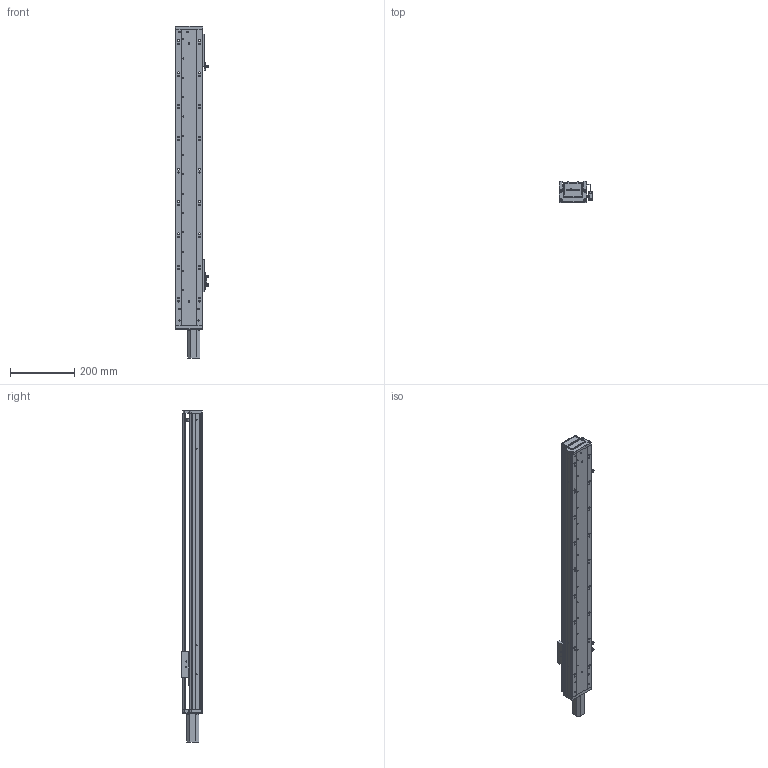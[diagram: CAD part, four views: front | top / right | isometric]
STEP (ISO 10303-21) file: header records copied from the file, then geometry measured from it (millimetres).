
FILE_DESCRIPTION (( 'STEP AP203' ), '1' );
FILE_NAME ('RY80-L1620-300-MK(100W).SLDASM_700.step', '2021-02-20T02:19:58', ( '' ), ( '' ), 'SwSTEP 2.0', 'SolidWorks 2012', '' );
FILE_SCHEMA (( 'CONFIG_CONTROL_DESIGN' ));
Products named in the file (12): RY80-L1620-300-MK(100W).SLDASM_700; 滅袉蝶18-24; 侂狟100W; RY80俋离覜茼え; 滅袉蝶18-10; 672嫖萇羲壽假蚾釱; 覜茼ん672; RY80綴裔啣; RY80-300-MK倰第奻裔啣_700; RY80前盖板(100W电机)M3; RY80臏賑輸; RY80-300-MK倰第菁釱_700
Assembly tree (14 placements, depth 2):
  RY80-L1620-300-MK(100W).SLDASM_700
    RY80-300-MK倰第菁釱_700
    RY80臏賑輸
    RY80-300-MK倰第奻裔啣_700
    RY80前盖板(100W电机)M3
    RY80綴裔啣
    滅袉蝶18-10
    672嫖萇羲壽假蚾釱  x2
    覜茼ん672  x3
    RY80俋离覜茼え
    滅袉蝶18-24
    侂狟100W
Bounding box: 103.7 x 65 x 1031 mm (x, y, z)
Volume: 1514101.1 mm3; surface area: 638949.3 mm2
Topology: 14 solids, 14 shells, 1669 faces, 4699 edges, 3069 vertices
Faces by surface type: plane 924, cylinder 636, cone 75, bspline 34
Entity records: 53350 total; most frequent: CARTESIAN_POINT 14653, ORIENTED_EDGE 8166, DIRECTION 7206, EDGE_CURVE 4083, VERTEX_POINT 2685, LINE 2434, VECTOR 2434, AXIS2_PLACEMENT_3D 2386
